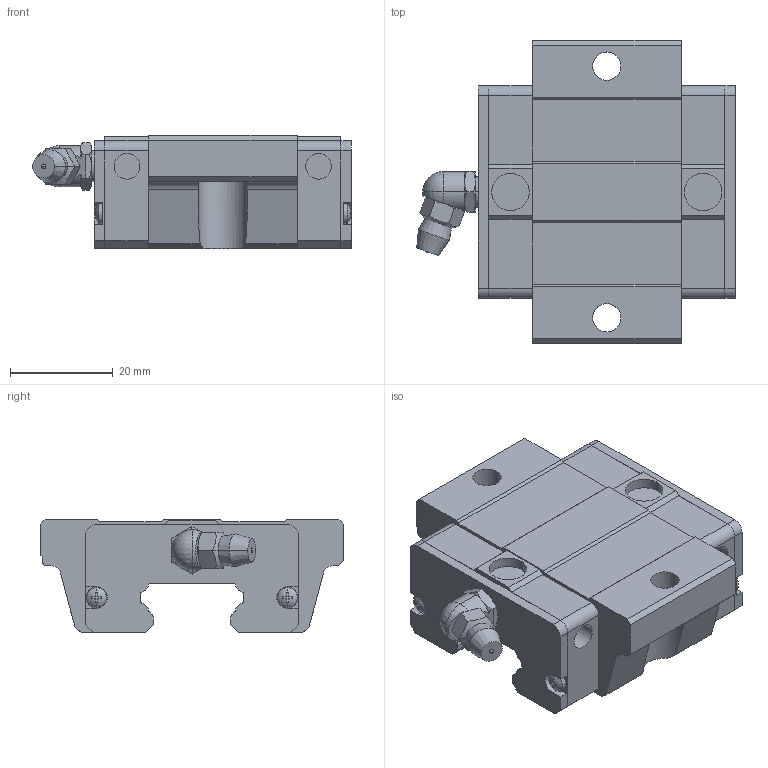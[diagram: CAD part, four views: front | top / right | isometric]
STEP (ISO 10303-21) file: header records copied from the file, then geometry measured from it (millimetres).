
FILE_DESCRIPTION(('starvars output'),'2;1');
FILE_NAME('cv20190626224029000075257.stp','22:40:29 2019/06/26',( 'Thomas Industrial Network Germany GmbH'),( 'Thomas Industrial Network Germany GmbH'),'unknown preprocess','ACIS' ,'unknown authorization');
FILE_SCHEMA(('CONFIG_CONTROL_DESIGN {UNKNOWN IMPLEMENTATION LEVEL}'));
Length unit declared in the file: millimetre
Products named in the file (10): PRODUCT_ID_1; PRODUCT_ID_2; PRODUCT_ID_3; PRODUCT_ID_4; PRODUCT_ID_5; PRODUCT_ID_6; PRODUCT_ID_7; PRODUCT_ID_8; PRODUCT_ID_9; PRODUCT_ID_10
Bounding box: 62 x 59 x 22 mm (x, y, z)
Volume: 42117 mm3; surface area: 17466.7 mm2
Topology: 10 solids, 10 shells, 403 faces, 1082 edges, 704 vertices
Faces by surface type: plane 227, cylinder 124, cone 40, sphere 12
Entity records: 12470 total; most frequent: ORIENTED_EDGE 2156, CARTESIAN_POINT 2060, DIRECTION 1843, EDGE_CURVE 1078, VERTEX_POINT 704, VECTOR 617, LINE 617, AXIS2_PLACEMENT_3D 613
